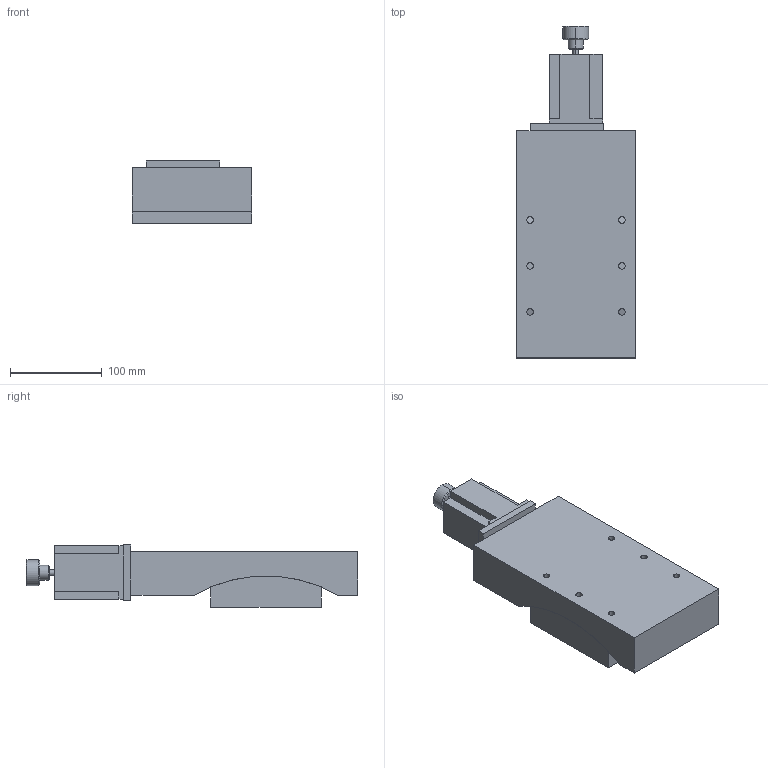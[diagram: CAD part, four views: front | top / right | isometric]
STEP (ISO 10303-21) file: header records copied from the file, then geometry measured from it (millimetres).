
FILE_DESCRIPTION (( 'STEP AP203' ), '1' );
FILE_NAME ('PT-GD305.STEP', '2017-05-08T06:09:53', ( '微软用户' ), ( '微软中国' ), 'SwSTEP 2.0', 'SolidWorks 2016', '' );
FILE_SCHEMA (( 'CONFIG_CONTROL_DESIGN' ));
Length unit declared in the file: millimetre
Products named in the file (3): PT-GD305 怢醱; PT-GD305; PT-GD305 菁釱
Assembly tree (2 placements, depth 2):
  PT-GD305
    PT-GD305 菁釱
    PT-GD305 怢醱
Bounding box: 130 x 361 x 67.5 mm (x, y, z)
Volume: 1940920.3 mm3; surface area: 175461.2 mm2
Topology: 2 solids, 3 shells, 184 faces, 447 edges, 257 vertices
Faces by surface type: cylinder 83, cone 52, plane 49
Entity records: 5905 total; most frequent: CARTESIAN_POINT 1417, DIRECTION 925, ORIENTED_EDGE 802, EDGE_CURVE 401, AXIS2_PLACEMENT_3D 350, VERTEX_POINT 257, EDGE_LOOP 230, VECTOR 225
